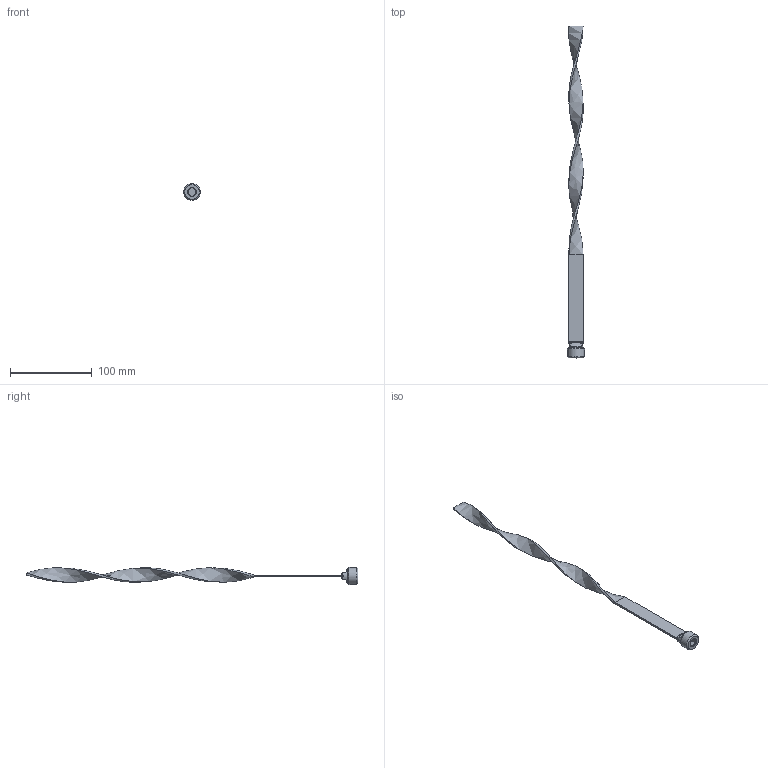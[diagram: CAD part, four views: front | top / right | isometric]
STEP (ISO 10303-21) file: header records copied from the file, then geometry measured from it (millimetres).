
FILE_DESCRIPTION(/* description */ (''),/* implementation_level */ '2;1');
FILE_NAME(/* name */ 'C:/Users/drich/Desktop/TB12X16 BSP v1.step',/* time_stamp */ '2020-01-14T09:24:23-06:00',/* author */ (''),/* organization */ (''),/* preprocessor_version */ 'ST-DEVELOPER v18',/* originating_system */ 'Autodesk Translation Framework v8.12.0.6',/* authorisation */ '');
FILE_SCHEMA (('AUTOMOTIVE_DESIGN { 1 0 10303 214 3 1 1 }'));
Length unit declared in the file: inch
Products named in the file (1): TB12X16 BSP
Bounding box: 20.81 x 406.4 x 20.81 mm (x, y, z)
Volume: 20221.4 mm3; surface area: 17436.6 mm2
Topology: 2 solids, 2 shells, 41 faces, 101 edges, 66 vertices
Faces by surface type: plane 20, cylinder 6, torus 6, bspline 6, cone 3
Full cylindrical faces by diameter (mm): 17.018 x1, 20.813 x1
Entity records: 2032 total; most frequent: CARTESIAN_POINT 1063, ORIENTED_EDGE 202, DIRECTION 177, EDGE_CURVE 101, VERTEX_POINT 66, AXIS2_PLACEMENT_3D 66, LINE 45, VECTOR 45
